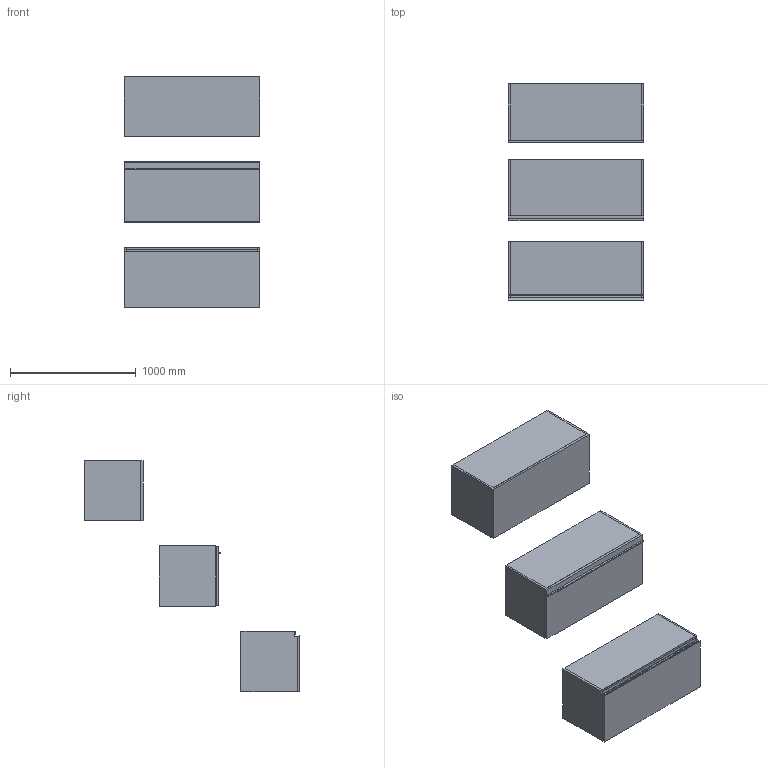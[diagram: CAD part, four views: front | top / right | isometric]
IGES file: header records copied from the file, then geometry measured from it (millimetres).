
Start section: Data from Parasolid IGES Translator 19.0.9, Copyright(c) 2006 Siemens PL M Software. All Rights Reserved.
Global section: file name: noorth-SI-H 48 D 47 W 108_8487.igs; native system: By Siemens PLM Incorporated; preprocessor: XPlus GENERIC/IGES 19.0.9; author: Noname; organization: Noname; date: 20200601.105743; units: metre
Bounding box: 1080 x 1719.1 x 1840.01 mm (x, y, z)
Volume: 98496219.6 mm3; surface area: 14872120 mm2
Topology: 20 solids, 20 shells, 178 faces, 382 edges, 234 vertices
Faces by surface type: plane 134, extrusion 16, bspline 16, cylinder 12
